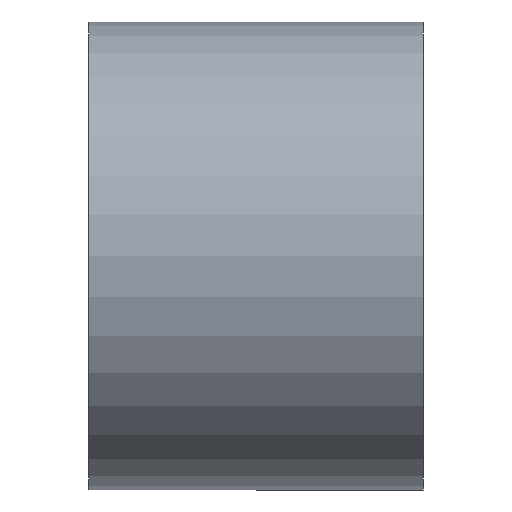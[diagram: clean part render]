
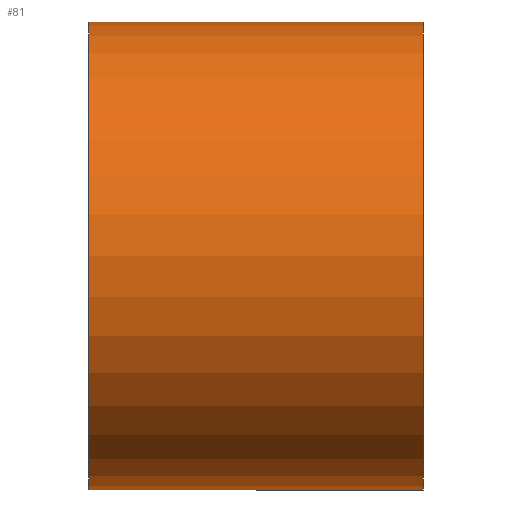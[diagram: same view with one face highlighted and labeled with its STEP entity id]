
A CAD part, front view. The second image highlights one B-rep face of the part: STEP entity #81.
In plain terms, the highlighted cylindrical face has radius 35 mm (diameter 70 mm), a partial arc.
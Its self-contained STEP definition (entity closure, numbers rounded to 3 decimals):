
#50 = VECTOR ( 'NONE', #100, 1000. ) ;
#80 = CARTESIAN_POINT ( 'NONE',  ( 25., 0., 35. ) ) ;
#81 = ADVANCED_FACE ( 'NONE', ( #819 ), #738, .T. ) ;
#82 = VERTEX_POINT ( 'NONE', #821 ) ;
#100 = DIRECTION ( 'NONE',  ( -1., 0., 0. ) ) ;
#176 = AXIS2_PLACEMENT_3D ( 'NONE', #823, #769, #550 ) ;
#184 = VERTEX_POINT ( 'NONE', #80 ) ;
#193 = VERTEX_POINT ( 'NONE', #597 ) ;
#201 = DIRECTION ( 'NONE',  ( 0., 0., 1. ) ) ;
#202 = EDGE_LOOP ( 'NONE', ( #498, #334, #455, #458 ) ) ;
#208 = CARTESIAN_POINT ( 'NONE',  ( -25., 0., -35. ) ) ;
#269 = LINE ( 'NONE', #686, #557 ) ;
#311 = EDGE_CURVE ( 'NONE', #82, #184, #544, .T. ) ;
#334 = ORIENTED_EDGE ( 'NONE', *, *, #311, .T. ) ;
#372 = AXIS2_PLACEMENT_3D ( 'NONE', #585, #456, #578 ) ;
#373 = CIRCLE ( 'NONE', #176, 35. ) ;
#386 = AXIS2_PLACEMENT_3D ( 'NONE', #479, #760, #201 ) ;
#455 = ORIENTED_EDGE ( 'NONE', *, *, #783, .T. ) ;
#456 = DIRECTION ( 'NONE',  ( -1., 0., 0. ) ) ;
#458 = ORIENTED_EDGE ( 'NONE', *, *, #867, .F. ) ;
#479 = CARTESIAN_POINT ( 'NONE',  ( 0., 0., 0. ) ) ;
#498 = ORIENTED_EDGE ( 'NONE', *, *, #852, .F. ) ;
#544 = CIRCLE ( 'NONE', #372, 35. ) ;
#546 = DIRECTION ( 'NONE',  ( -1., 0., 0. ) ) ;
#550 = DIRECTION ( 'NONE',  ( 0., 0., 1. ) ) ;
#557 = VECTOR ( 'NONE', #546, 1000. ) ;
#578 = DIRECTION ( 'NONE',  ( 0., 0., 1. ) ) ;
#585 = CARTESIAN_POINT ( 'NONE',  ( 25., 0., 0. ) ) ;
#597 = CARTESIAN_POINT ( 'NONE',  ( -25., 0., 35. ) ) ;
#686 = CARTESIAN_POINT ( 'NONE',  ( 0., 0., -35. ) ) ;
#738 = CYLINDRICAL_SURFACE ( 'NONE', #386, 35. ) ;
#760 = DIRECTION ( 'NONE',  ( -1., 0., 0. ) ) ;
#769 = DIRECTION ( 'NONE',  ( -1., 0., 0. ) ) ;
#782 = LINE ( 'NONE', #788, #50 ) ;
#783 = EDGE_CURVE ( 'NONE', #184, #193, #782, .T. ) ;
#788 = CARTESIAN_POINT ( 'NONE',  ( 0., 0., 35. ) ) ;
#817 = VERTEX_POINT ( 'NONE', #208 ) ;
#819 = FACE_OUTER_BOUND ( 'NONE', #202, .T. ) ;
#821 = CARTESIAN_POINT ( 'NONE',  ( 25., 0., -35. ) ) ;
#823 = CARTESIAN_POINT ( 'NONE',  ( -25., 0., 0. ) ) ;
#852 = EDGE_CURVE ( 'NONE', #82, #817, #269, .T. ) ;
#867 = EDGE_CURVE ( 'NONE', #817, #193, #373, .T. ) ;
